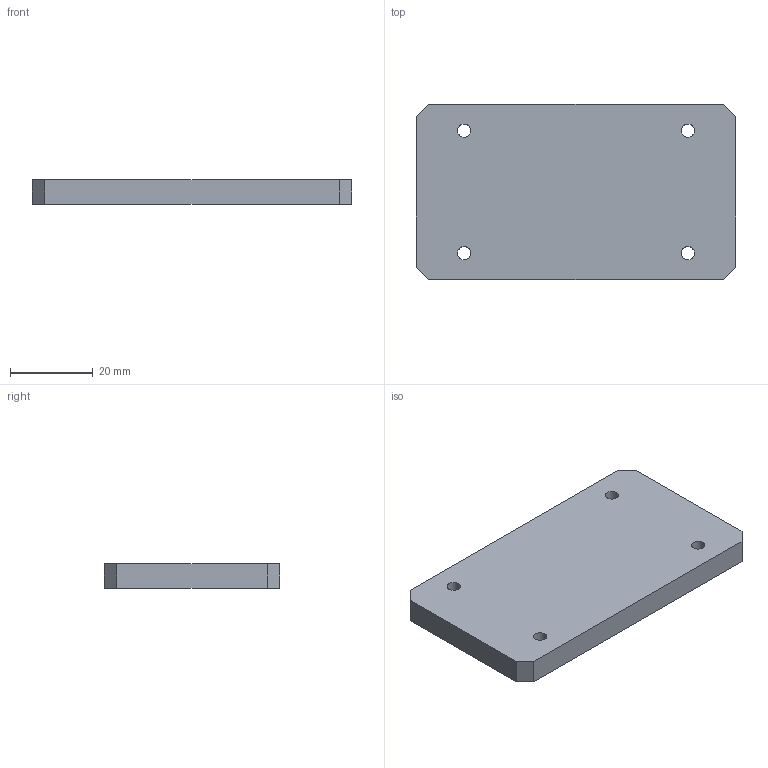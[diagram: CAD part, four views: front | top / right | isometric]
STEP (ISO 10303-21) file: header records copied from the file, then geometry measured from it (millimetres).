
FILE_DESCRIPTION(('Mechanical CAD reference from nasji.com'),'2;1');
FILE_NAME('NASJI.step','',(''),(''),'','NASJI distribution','');
FILE_SCHEMA(('AUTOMOTIVE_DESIGN { 1 0 10303 214 1 1 1 1 }'));
Length unit declared in the file: millimetre
Products named in the file (1): Open CASCADE STEP translator 7.8 256
Bounding box: 77.01 x 42.2 x 6 mm (x, y, z)
Volume: 19197.9 mm3; surface area: 8028.9 mm2
Topology: 1 solids, 1 shells, 14 faces, 36 edges, 24 vertices
Faces by surface type: plane 10, cylinder 4
Full cylindrical faces by diameter (mm): 3.2 x4
Entity records: 946 total; most frequent: CARTESIAN_POINT 195, DIRECTION 138, LINE 92, VECTOR 92, ORIENTED_EDGE 72, PCURVE 72, DEFINITIONAL_REPRESENTATION 72, EDGE_CURVE 36
